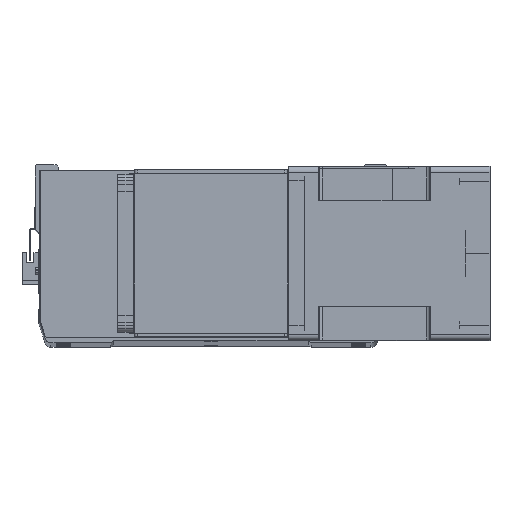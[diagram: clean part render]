
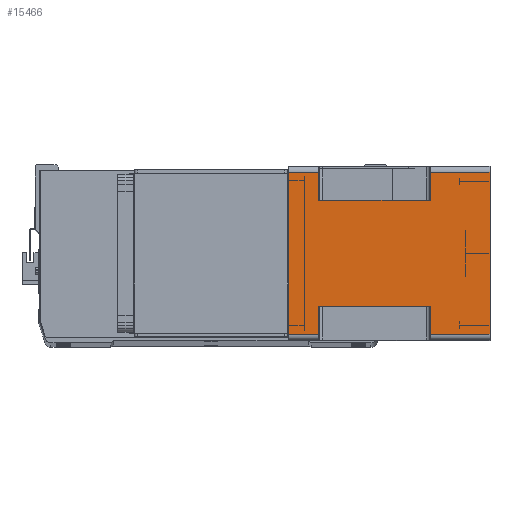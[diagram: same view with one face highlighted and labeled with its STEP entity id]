
A CAD part, top view. The second image highlights one B-rep face of the part: STEP entity #15466.
In plain terms, the highlighted planar face has unit normal (0, 0, 1) as drawn and (1, 0, 0) by its records, which use the part's own axes.
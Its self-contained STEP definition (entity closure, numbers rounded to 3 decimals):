
#450 = CARTESIAN_POINT ( 'NONE',  ( 71., 43., -115.5 ) ) ;
#967 = DIRECTION ( 'NONE',  ( 0., 1., 0. ) ) ;
#1460 = VECTOR ( 'NONE', #2864, 1000. ) ;
#1465 = ORIENTED_EDGE ( 'NONE', *, *, #9475, .T. ) ;
#1482 = LINE ( 'NONE', #450, #23888 ) ;
#2326 = CARTESIAN_POINT ( 'NONE',  ( 71., -43., -115.5 ) ) ;
#2588 = CARTESIAN_POINT ( 'NONE',  ( 71., 43., -24.5 ) ) ;
#2864 = DIRECTION ( 'NONE',  ( 0., -1., 0. ) ) ;
#3223 = VERTEX_POINT ( 'NONE', #30621 ) ;
#3260 = ORIENTED_EDGE ( 'NONE', *, *, #11084, .F. ) ;
#3365 = EDGE_CURVE ( 'NONE', #29540, #3223, #14606, .T. ) ;
#3939 = AXIS2_PLACEMENT_3D ( 'NONE', #26347, #11373, #8736 ) ;
#4405 = VECTOR ( 'NONE', #7752, 1000. ) ;
#5191 = LINE ( 'NONE', #10945, #17787 ) ;
#5856 = CARTESIAN_POINT ( 'NONE',  ( 71., -66., -115.5 ) ) ;
#5877 = CARTESIAN_POINT ( 'NONE',  ( 71., -66., -115.5 ) ) ;
#5975 = VERTEX_POINT ( 'NONE', #21927 ) ;
#6283 = VERTEX_POINT ( 'NONE', #5877 ) ;
#6335 = VECTOR ( 'NONE', #7304, 1000. ) ;
#6434 = CARTESIAN_POINT ( 'NONE',  ( 71., -66., -164. ) ) ;
#7154 = ORIENTED_EDGE ( 'NONE', *, *, #31747, .T. ) ;
#7304 = DIRECTION ( 'NONE',  ( 0., 0., 1. ) ) ;
#7449 = VERTEX_POINT ( 'NONE', #18775 ) ;
#7752 = DIRECTION ( 'NONE',  ( 0., 1., 0. ) ) ;
#7796 = DIRECTION ( 'NONE',  ( 0., 0., -1. ) ) ;
#7977 = CARTESIAN_POINT ( 'NONE',  ( 71., -43., -164. ) ) ;
#8199 = VERTEX_POINT ( 'NONE', #2588 ) ;
#8501 = CARTESIAN_POINT ( 'NONE',  ( 71., -66., -24.5 ) ) ;
#8736 = DIRECTION ( 'NONE',  ( 0., 1., 0. ) ) ;
#9475 = EDGE_CURVE ( 'NONE', #3223, #19306, #1482, .T. ) ;
#9544 = LINE ( 'NONE', #15007, #4405 ) ;
#9563 = FACE_OUTER_BOUND ( 'NONE', #12517, .T. ) ;
#9629 = ORIENTED_EDGE ( 'NONE', *, *, #3365, .T. ) ;
#9646 = VECTOR ( 'NONE', #24093, 1000. ) ;
#9824 = LINE ( 'NONE', #6434, #13325 ) ;
#9997 = VERTEX_POINT ( 'NONE', #20652 ) ;
#10336 = VERTEX_POINT ( 'NONE', #29648 ) ;
#10455 = EDGE_CURVE ( 'NONE', #12918, #7449, #15560, .T. ) ;
#10639 = DIRECTION ( 'NONE',  ( 0., 0., 1. ) ) ;
#10945 = CARTESIAN_POINT ( 'NONE',  ( 71., -43., -24.5 ) ) ;
#11084 = EDGE_CURVE ( 'NONE', #10336, #6283, #14678, .T. ) ;
#11269 = PLANE ( 'NONE',  #3939 ) ;
#11373 = DIRECTION ( 'NONE',  ( 1., 0., 0. ) ) ;
#11912 = CARTESIAN_POINT ( 'NONE',  ( 71., -66., -164. ) ) ;
#12517 = EDGE_LOOP ( 'NONE', ( #13064, #17739, #3260, #25526, #9629, #1465, #32428, #22757, #7154, #22785, #19171, #13865 ) ) ;
#12679 = EDGE_CURVE ( 'NONE', #19782, #5975, #9824, .T. ) ;
#12918 = VERTEX_POINT ( 'NONE', #2326 ) ;
#13064 = ORIENTED_EDGE ( 'NONE', *, *, #10455, .F. ) ;
#13128 = EDGE_CURVE ( 'NONE', #12918, #6283, #13689, .T. ) ;
#13325 = VECTOR ( 'NONE', #29111, 1000. ) ;
#13689 = LINE ( 'NONE', #5856, #1460 ) ;
#13865 = ORIENTED_EDGE ( 'NONE', *, *, #26133, .T. ) ;
#13888 = VECTOR ( 'NONE', #7796, 1000. ) ;
#14463 = EDGE_CURVE ( 'NONE', #10336, #29540, #19103, .T. ) ;
#14606 = LINE ( 'NONE', #19712, #6335 ) ;
#14678 = LINE ( 'NONE', #20029, #20206 ) ;
#15007 = CARTESIAN_POINT ( 'NONE',  ( 71., -66., 0. ) ) ;
#15466 = ADVANCED_FACE ( 'NONE', ( #9563 ), #11269, .T. ) ;
#15560 = LINE ( 'NONE', #7977, #23378 ) ;
#16223 = CARTESIAN_POINT ( 'NONE',  ( 71., 66., -164. ) ) ;
#17739 = ORIENTED_EDGE ( 'NONE', *, *, #13128, .T. ) ;
#17787 = VECTOR ( 'NONE', #28422, 1000. ) ;
#17933 = EDGE_CURVE ( 'NONE', #8199, #19306, #22117, .T. ) ;
#18191 = CARTESIAN_POINT ( 'NONE',  ( 71., 66., 0. ) ) ;
#18414 = VECTOR ( 'NONE', #967, 1000. ) ;
#18775 = CARTESIAN_POINT ( 'NONE',  ( 71., -43., -24.5 ) ) ;
#19103 = LINE ( 'NONE', #11912, #22998 ) ;
#19171 = ORIENTED_EDGE ( 'NONE', *, *, #12679, .F. ) ;
#19203 = CARTESIAN_POINT ( 'NONE',  ( 71., 43., -115.5 ) ) ;
#19306 = VERTEX_POINT ( 'NONE', #19203 ) ;
#19712 = CARTESIAN_POINT ( 'NONE',  ( 71., 66., -164. ) ) ;
#19782 = VERTEX_POINT ( 'NONE', #8501 ) ;
#20029 = CARTESIAN_POINT ( 'NONE',  ( 71., -66., -164. ) ) ;
#20093 = EDGE_CURVE ( 'NONE', #8199, #9997, #24605, .T. ) ;
#20206 = VECTOR ( 'NONE', #27528, 1000. ) ;
#20652 = CARTESIAN_POINT ( 'NONE',  ( 71., 66., -24.5 ) ) ;
#21690 = DIRECTION ( 'NONE',  ( 0., 1., 0. ) ) ;
#21927 = CARTESIAN_POINT ( 'NONE',  ( 71., -66., 0. ) ) ;
#22117 = LINE ( 'NONE', #22808, #13888 ) ;
#22429 = CARTESIAN_POINT ( 'NONE',  ( 71., 66., -164. ) ) ;
#22757 = ORIENTED_EDGE ( 'NONE', *, *, #20093, .T. ) ;
#22785 = ORIENTED_EDGE ( 'NONE', *, *, #26036, .F. ) ;
#22808 = CARTESIAN_POINT ( 'NONE',  ( 71., 43., -164. ) ) ;
#22998 = VECTOR ( 'NONE', #21690, 1000. ) ;
#23105 = DIRECTION ( 'NONE',  ( 0., -1., 0. ) ) ;
#23378 = VECTOR ( 'NONE', #10639, 1000. ) ;
#23888 = VECTOR ( 'NONE', #23105, 1000. ) ;
#24093 = DIRECTION ( 'NONE',  ( 0., 0., 1. ) ) ;
#24605 = LINE ( 'NONE', #30917, #18414 ) ;
#25526 = ORIENTED_EDGE ( 'NONE', *, *, #14463, .T. ) ;
#26036 = EDGE_CURVE ( 'NONE', #5975, #31283, #9544, .T. ) ;
#26133 = EDGE_CURVE ( 'NONE', #19782, #7449, #5191, .T. ) ;
#26347 = CARTESIAN_POINT ( 'NONE',  ( 71., -66., -164. ) ) ;
#27528 = DIRECTION ( 'NONE',  ( 0., 0., 1. ) ) ;
#28422 = DIRECTION ( 'NONE',  ( 0., 1., 0. ) ) ;
#29111 = DIRECTION ( 'NONE',  ( 0., 0., 1. ) ) ;
#29540 = VERTEX_POINT ( 'NONE', #22429 ) ;
#29648 = CARTESIAN_POINT ( 'NONE',  ( 71., -66., -164. ) ) ;
#30621 = CARTESIAN_POINT ( 'NONE',  ( 71., 66., -115.5 ) ) ;
#30917 = CARTESIAN_POINT ( 'NONE',  ( 71., -66., -24.5 ) ) ;
#31283 = VERTEX_POINT ( 'NONE', #18191 ) ;
#31747 = EDGE_CURVE ( 'NONE', #9997, #31283, #32325, .T. ) ;
#32325 = LINE ( 'NONE', #16223, #9646 ) ;
#32428 = ORIENTED_EDGE ( 'NONE', *, *, #17933, .F. ) ;
